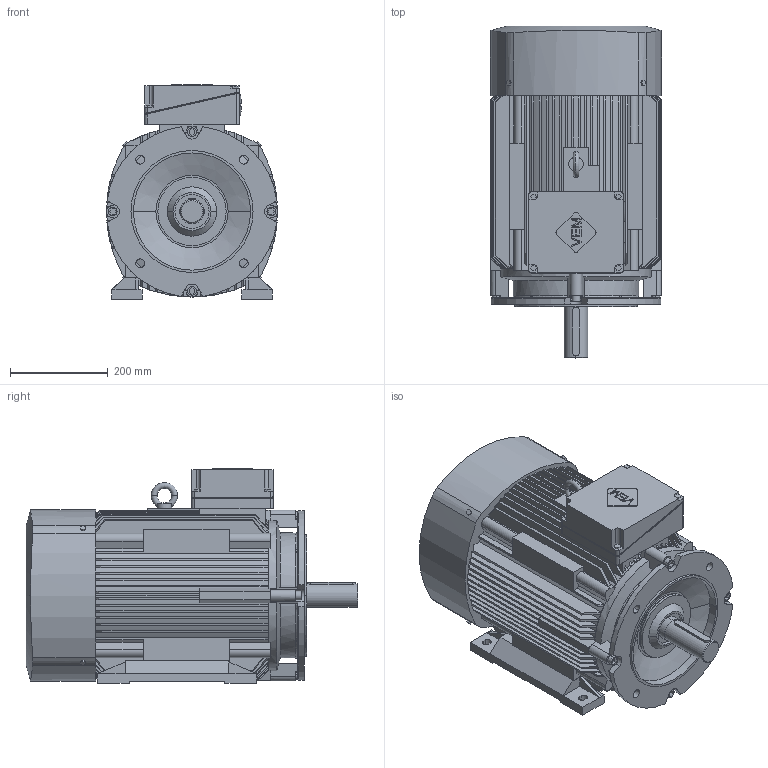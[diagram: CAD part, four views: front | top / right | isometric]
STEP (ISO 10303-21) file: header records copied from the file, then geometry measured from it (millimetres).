
FILE_DESCRIPTION(('STEP AP214'),'1');
FILE_NAME('cctmp_C65ABDB2-AAA9-40D6-ADCE-1A0B1C5B299C_2026_02_06_09_44_37_0024..stp','2026-02-06T08:44:37',('VEM motors GmbH'),('CADClick - www.CADClick.com'),'Spatial InterOp 3D postprocessed',' ','unknown authorization');
FILE_SCHEMA(('AUTOMOTIVE_DESIGN'));
Length unit declared in the file: millimetre
Products named in the file (1): 2026_02_06_09_44_37_0024
Bounding box: 350.5 x 679.75 x 440 mm (x, y, z)
Volume: 52730701.2 mm3; surface area: 2084243.4 mm2
Topology: 1 solids, 1 shells, 879 faces, 2498 edges, 1646 vertices
Faces by surface type: plane 501, cylinder 236, cone 120, torus 18, bspline 4
Entity records: 34986 total; most frequent: CARTESIAN_POINT 9882, ORIENTED_EDGE 4996, DIRECTION 4422, EDGE_CURVE 2498, VERTEX_POINT 1646, LINE 1546, VECTOR 1546, AXIS2_PLACEMENT_3D 1438
